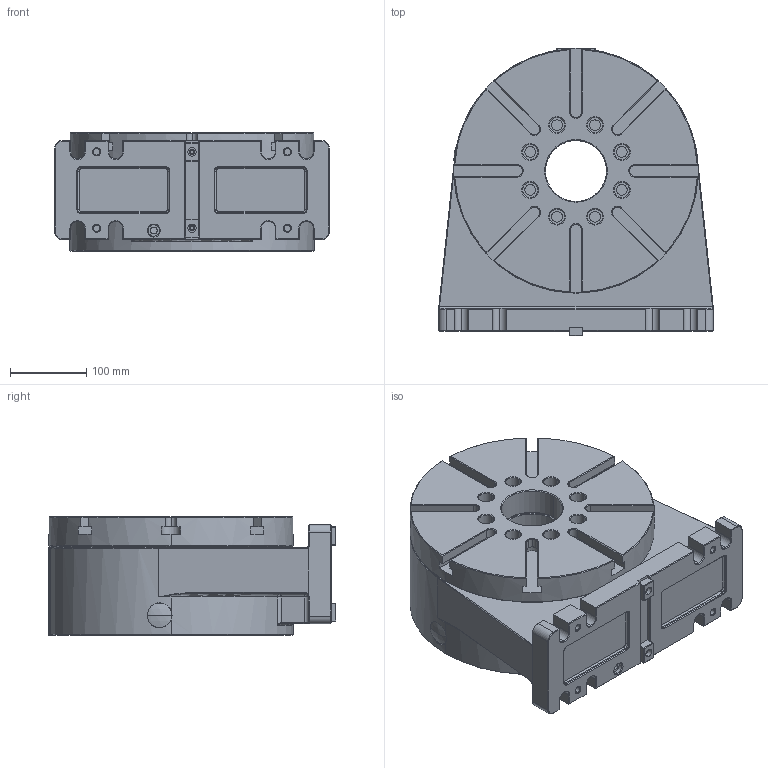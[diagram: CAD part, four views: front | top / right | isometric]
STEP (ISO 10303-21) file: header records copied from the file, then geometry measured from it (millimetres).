
FILE_DESCRIPTION (( 'STEP AP203' ), '1' );
FILE_NAME ('WDS-RS210 Íâ¹Û³ß´çÍ¼ REV.01.STEP', '2021-03-01T02:47:04', ( '' ), ( '' ), 'SwSTEP 2.0', 'SolidWorks 2018', '' );
FILE_SCHEMA (( 'CONFIG_CONTROL_DESIGN' ));
Length unit declared in the file: centimetre
Products named in the file (1): WDS-RS210 俋夤喜渡芞 REV.01
Bounding box: 360 x 377 x 155 mm (x, y, z)
Surface area: 657124.8 mm2 (no closed solid volume)
Topology: 0 solids, 10 shells, 592 faces, 1524 edges, 944 vertices
Faces by surface type: plane 231, cylinder 184, cone 136, torus 20, bspline 12, sphere 9
Entity records: 22186 total; most frequent: CARTESIAN_POINT 7551, DIRECTION 3233, ORIENTED_EDGE 2810, EDGE_CURVE 1514, AXIS2_PLACEMENT_3D 1205, VERTEX_POINT 944, LINE 823, VECTOR 823
